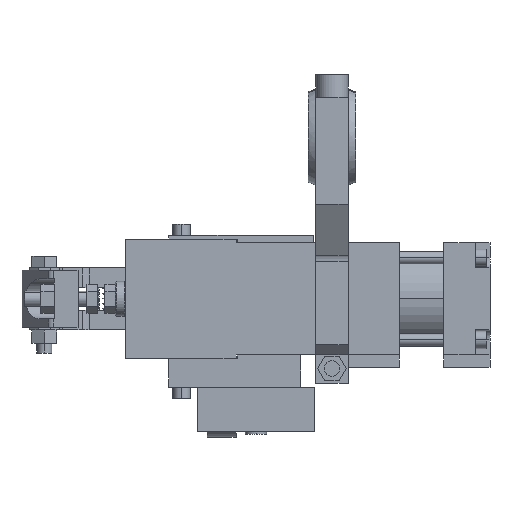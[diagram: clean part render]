
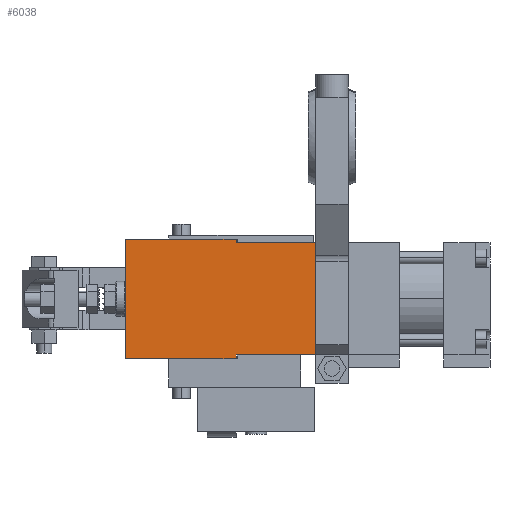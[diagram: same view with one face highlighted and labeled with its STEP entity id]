
A CAD part, left-side view. The second image highlights one B-rep face of the part: STEP entity #6038.
In plain terms, the highlighted planar face has unit normal (-1, 0, 0).
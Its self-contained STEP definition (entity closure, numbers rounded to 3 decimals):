
#465 = VERTEX_POINT ( 'NONE', #23352 ) ;
#1073 = CARTESIAN_POINT ( 'NONE',  ( -22.5, -8., 24. ) ) ;
#2006 = VERTEX_POINT ( 'NONE', #18192 ) ;
#3166 = ORIENTED_EDGE ( 'NONE', *, *, #16748, .T. ) ;
#3490 = AXIS2_PLACEMENT_3D ( 'NONE', #13112, #22804, #11272 ) ;
#3670 = CARTESIAN_POINT ( 'NONE',  ( -22.5, 36.5, 24. ) ) ;
#3707 = VECTOR ( 'NONE', #10853, 1000. ) ;
#3918 = VECTOR ( 'NONE', #13899, 1000. ) ;
#3919 = DIRECTION ( 'NONE',  ( 0., -1., 0. ) ) ;
#4306 = LINE ( 'NONE', #20465, #3707 ) ;
#4451 = ORIENTED_EDGE ( 'NONE', *, *, #15341, .T. ) ;
#4526 = LINE ( 'NONE', #11969, #3918 ) ;
#4800 = CARTESIAN_POINT ( 'NONE',  ( -22.5, -8., -24. ) ) ;
#5685 = VECTOR ( 'NONE', #8626, 1000. ) ;
#6038 = ADVANCED_FACE ( 'NONE', ( #8766 ), #9317, .F. ) ;
#6868 = LINE ( 'NONE', #19271, #17154 ) ;
#6904 = LINE ( 'NONE', #4800, #5685 ) ;
#6980 = ORIENTED_EDGE ( 'NONE', *, *, #20818, .F. ) ;
#7047 = VECTOR ( 'NONE', #9771, 1000. ) ;
#7111 = VECTOR ( 'NONE', #24831, 1000. ) ;
#7334 = VECTOR ( 'NONE', #25014, 1000. ) ;
#7335 = ORIENTED_EDGE ( 'NONE', *, *, #18350, .F. ) ;
#7716 = LINE ( 'NONE', #3670, #7111 ) ;
#7724 = DIRECTION ( 'NONE',  ( 0., 0., -1. ) ) ;
#8323 = VERTEX_POINT ( 'NONE', #24264 ) ;
#8626 = DIRECTION ( 'NONE',  ( 0., 0., 1. ) ) ;
#8766 = FACE_OUTER_BOUND ( 'NONE', #14541, .T. ) ;
#9317 = PLANE ( 'NONE',  #3490 ) ;
#9771 = DIRECTION ( 'NONE',  ( 0., 0., -1. ) ) ;
#10853 = DIRECTION ( 'NONE',  ( 0., -1., 0. ) ) ;
#11033 = EDGE_CURVE ( 'NONE', #23987, #14961, #19875, .T. ) ;
#11272 = DIRECTION ( 'NONE',  ( 0., 1., 0. ) ) ;
#11558 = CARTESIAN_POINT ( 'NONE',  ( -22.5, 22., -22.5 ) ) ;
#11969 = CARTESIAN_POINT ( 'NONE',  ( -22.5, 22., -24. ) ) ;
#12192 = LINE ( 'NONE', #13545, #7047 ) ;
#12428 = EDGE_CURVE ( 'NONE', #13467, #23987, #7716, .T. ) ;
#13087 = CARTESIAN_POINT ( 'NONE',  ( -22.5, 36.5, -24. ) ) ;
#13112 = CARTESIAN_POINT ( 'NONE',  ( -22.5, 22., 12.5 ) ) ;
#13467 = VERTEX_POINT ( 'NONE', #13087 ) ;
#13545 = CARTESIAN_POINT ( 'NONE',  ( -22.5, -8., 24. ) ) ;
#13873 = ORIENTED_EDGE ( 'NONE', *, *, #12428, .F. ) ;
#13899 = DIRECTION ( 'NONE',  ( 0., -1., 0. ) ) ;
#14045 = EDGE_CURVE ( 'NONE', #2006, #21860, #22113, .T. ) ;
#14541 = EDGE_LOOP ( 'NONE', ( #20972, #13873, #4451, #3166, #17673, #7335, #18393, #6980 ) ) ;
#14961 = VERTEX_POINT ( 'NONE', #1073 ) ;
#15341 = EDGE_CURVE ( 'NONE', #13467, #22792, #4526, .T. ) ;
#16748 = EDGE_CURVE ( 'NONE', #22792, #2006, #6904, .T. ) ;
#17154 = VECTOR ( 'NONE', #7724, 1000. ) ;
#17673 = ORIENTED_EDGE ( 'NONE', *, *, #14045, .T. ) ;
#18192 = CARTESIAN_POINT ( 'NONE',  ( -22.5, -8., -22.5 ) ) ;
#18350 = EDGE_CURVE ( 'NONE', #465, #21860, #6868, .T. ) ;
#18393 = ORIENTED_EDGE ( 'NONE', *, *, #21193, .F. ) ;
#19271 = CARTESIAN_POINT ( 'NONE',  ( -22.5, -40., 12.5 ) ) ;
#19286 = CARTESIAN_POINT ( 'NONE',  ( -22.5, 22., 24. ) ) ;
#19875 = LINE ( 'NONE', #19286, #24372 ) ;
#20453 = CARTESIAN_POINT ( 'NONE',  ( -22.5, -8., -24. ) ) ;
#20465 = CARTESIAN_POINT ( 'NONE',  ( -22.5, 22., 22.5 ) ) ;
#20818 = EDGE_CURVE ( 'NONE', #14961, #8323, #12192, .T. ) ;
#20972 = ORIENTED_EDGE ( 'NONE', *, *, #11033, .F. ) ;
#21193 = EDGE_CURVE ( 'NONE', #8323, #465, #4306, .T. ) ;
#21860 = VERTEX_POINT ( 'NONE', #23074 ) ;
#22113 = LINE ( 'NONE', #11558, #7334 ) ;
#22792 = VERTEX_POINT ( 'NONE', #20453 ) ;
#22804 = DIRECTION ( 'NONE',  ( 1., 0., 0. ) ) ;
#23074 = CARTESIAN_POINT ( 'NONE',  ( -22.5, -40., -22.5 ) ) ;
#23352 = CARTESIAN_POINT ( 'NONE',  ( -22.5, -40., 22.5 ) ) ;
#23987 = VERTEX_POINT ( 'NONE', #24494 ) ;
#24264 = CARTESIAN_POINT ( 'NONE',  ( -22.5, -8., 22.5 ) ) ;
#24372 = VECTOR ( 'NONE', #3919, 1000. ) ;
#24494 = CARTESIAN_POINT ( 'NONE',  ( -22.5, 36.5, 24. ) ) ;
#24831 = DIRECTION ( 'NONE',  ( 0., 0., 1. ) ) ;
#25014 = DIRECTION ( 'NONE',  ( 0., -1., 0. ) ) ;
